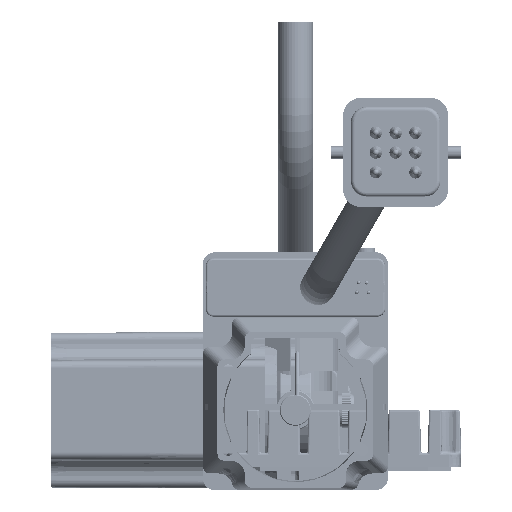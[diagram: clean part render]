
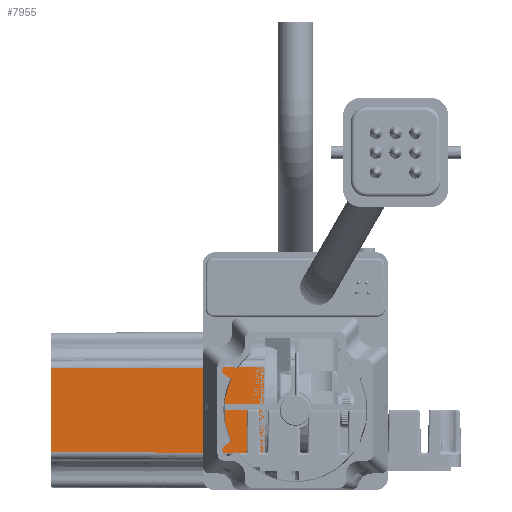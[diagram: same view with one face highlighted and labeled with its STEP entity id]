
A CAD part, front view. The second image highlights one B-rep face of the part: STEP entity #7955.
In plain terms, the highlighted planar face has unit normal (-0.004, -1, 0).
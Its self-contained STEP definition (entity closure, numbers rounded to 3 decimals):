
#7955 = ADVANCED_FACE( '', ( #18981 ), #18982, .T. );
#18981 = FACE_OUTER_BOUND( '', #37682, .T. );
#18982 = PLANE( '', #37683 );
#37682 = EDGE_LOOP( '', ( #65586, #65587, #65588, #65589 ) );
#37683 = AXIS2_PLACEMENT_3D( '', #65590, #65591, #65592 );
#65586 = ORIENTED_EDGE( '', *, *, #85917, .T. );
#65587 = ORIENTED_EDGE( '', *, *, #88679, .T. );
#65588 = ORIENTED_EDGE( '', *, *, #87153, .T. );
#65589 = ORIENTED_EDGE( '', *, *, #88680, .T. );
#65590 = CARTESIAN_POINT( '', ( -7., -20.1, 0. ) );
#65591 = DIRECTION( '', ( -0.004, -1., 0. ) );
#65592 = DIRECTION( '', ( 1., -0.004, 0. ) );
#85917 = EDGE_CURVE( '', #97979, #97977, #97980, .T. );
#87153 = EDGE_CURVE( '', #99995, #99996, #99997, .T. );
#88679 = EDGE_CURVE( '', #97977, #99995, #102095, .T. );
#88680 = EDGE_CURVE( '', #99996, #97979, #102096, .T. );
#97977 = VERTEX_POINT( '', #123144 );
#97979 = VERTEX_POINT( '', #123146 );
#97980 = LINE( '', #123147, #123148 );
#99995 = VERTEX_POINT( '', #127559 );
#99996 = VERTEX_POINT( '', #127560 );
#99997 = LINE( '', #127561, #127562 );
#102095 = LINE( '', #133328, #133329 );
#102096 = LINE( '', #133330, #133331 );
#123144 = CARTESIAN_POINT( '', ( -7.75, -20.097, -10.997 ) );
#123146 = CARTESIAN_POINT( '', ( -62.75, -19.857, -10.757 ) );
#123147 = CARTESIAN_POINT( '', ( -6.991, -20.1, -11. ) );
#123148 = VECTOR( '', #149711, 1000. );
#127559 = CARTESIAN_POINT( '', ( -7.75, -20.097, 10.997 ) );
#127560 = CARTESIAN_POINT( '', ( -62.75, -19.857, 10.757 ) );
#127561 = CARTESIAN_POINT( '', ( -63.491, -19.854, 10.754 ) );
#127562 = VECTOR( '', #151621, 1000. );
#133328 = CARTESIAN_POINT( '', ( -7.75, -20.097, 0. ) );
#133329 = VECTOR( '', #153554, 1000. );
#133330 = CARTESIAN_POINT( '', ( -62.75, -19.857, 0. ) );
#133331 = VECTOR( '', #153555, 1000. );
#149711 = DIRECTION( '', ( 1., -0.004, -0.004 ) );
#151621 = DIRECTION( '', ( -1., 0.004, -0.004 ) );
#153554 = DIRECTION( '', ( 0., 0., 1. ) );
#153555 = DIRECTION( '', ( 0., 0., -1. ) );
